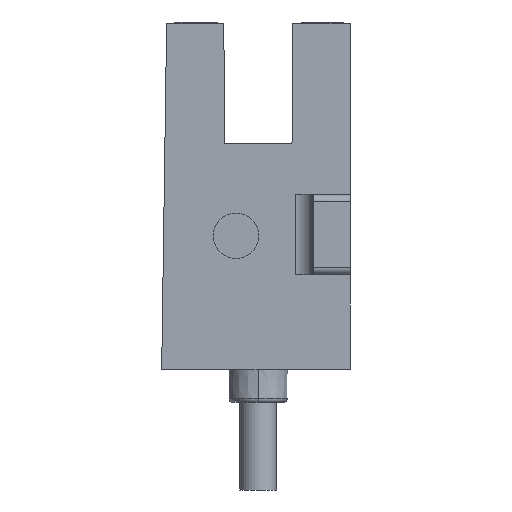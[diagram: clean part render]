
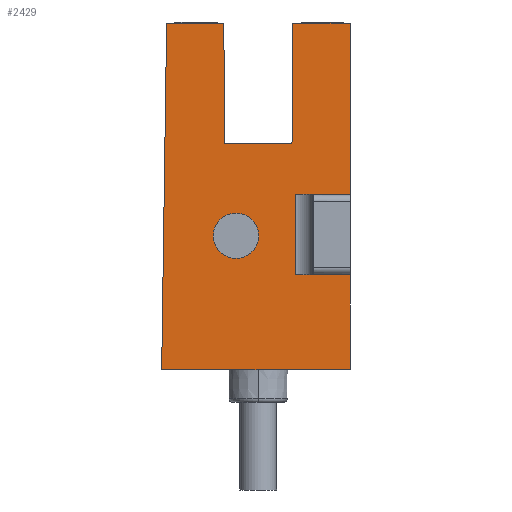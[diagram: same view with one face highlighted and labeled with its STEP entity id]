
A CAD part, left-side view. The second image highlights one B-rep face of the part: STEP entity #2429.
In plain terms, the highlighted planar face has unit normal (-1, 0, 0).
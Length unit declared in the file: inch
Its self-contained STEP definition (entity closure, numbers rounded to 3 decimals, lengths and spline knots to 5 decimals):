
#129=DIRECTION('',(0.,-1.,0.));
#130=VECTOR('',#129,0.0144);
#131=CARTESIAN_POINT('',(-0.00322,-0.01464,0.));
#132=LINE('',#131,#130);
#173=DIRECTION('',(0.,1.,0.));
#174=VECTOR('',#173,0.00437);
#175=CARTESIAN_POINT('',(-0.00322,-0.01939,
0.02643));
#176=LINE('',#175,#174);
#289=DIRECTION('',(0.,0.,1.));
#290=VECTOR('',#289,0.00724);
#291=CARTESIAN_POINT('',(-0.00322,-0.02904,0.));
#292=LINE('',#291,#290);
#315=DIRECTION('',(0.,0.,1.));
#316=VECTOR('',#315,0.01307);
#317=CARTESIAN_POINT('',(-0.00322,-0.02904,
0.01337));
#318=LINE('',#317,#316);
#435=CARTESIAN_POINT('',(-0.00322,-0.02031,
0.01022));
#436=DIRECTION('',(-1.,0.,0.));
#437=DIRECTION('',(0.,0.,-1.));
#438=AXIS2_PLACEMENT_3D('',#435,#436,#437);
#440=CARTESIAN_POINT('',(-0.00322,-0.02031,
0.01022));
#441=DIRECTION('',(-1.,0.,0.));
#442=DIRECTION('',(0.,0.,1.));
#443=AXIS2_PLACEMENT_3D('',#440,#441,#442);
#445=DIRECTION('',(0.,0.,1.));
#446=VECTOR('',#445,0.00613);
#447=CARTESIAN_POINT('',(-0.00322,-0.02482,
0.00724));
#448=LINE('',#447,#446);
#449=DIRECTION('',(0.,-0.014,1.));
#450=VECTOR('',#449,0.02643);
#451=CARTESIAN_POINT('',(-0.00322,-0.01464,0.));
#452=LINE('',#451,#450);
#453=DIRECTION('',(0.,-0.003,-1.));
#454=VECTOR('',#453,0.00921);
#455=CARTESIAN_POINT('',(-0.00322,-0.01939,
0.02643));
#456=LINE('',#455,#454);
#457=DIRECTION('',(0.,-1.,0.));
#458=VECTOR('',#457,0.00517);
#459=CARTESIAN_POINT('',(-0.00322,-0.01942,
0.01723));
#460=LINE('',#459,#458);
#461=DIRECTION('',(0.,-0.003,1.));
#462=VECTOR('',#461,0.00921);
#463=CARTESIAN_POINT('',(-0.00322,-0.02458,
0.01723));
#464=LINE('',#463,#462);
#465=DIRECTION('',(0.,-1.,0.));
#466=VECTOR('',#465,0.00442);
#467=CARTESIAN_POINT('',(-0.00322,-0.02461,
0.02643));
#468=LINE('',#467,#466);
#583=DIRECTION('',(0.,-1.,0.));
#584=VECTOR('',#583,0.00422);
#585=CARTESIAN_POINT('',(-0.00322,-0.02482,
0.01337));
#586=LINE('',#585,#584);
#619=DIRECTION('',(0.,1.,0.));
#620=VECTOR('',#619,0.00422);
#621=CARTESIAN_POINT('',(-0.00322,-0.02904,
0.00724));
#622=LINE('',#621,#620);
#1617=CARTESIAN_POINT('',(-0.00322,-0.01464,0.));
#1619=VERTEX_POINT('',#1617);
#1621=CARTESIAN_POINT('',(-0.00322,-0.02904,0.));
#1622=VERTEX_POINT('',#1621);
#1637=CARTESIAN_POINT('',(-0.00322,-0.01501,
0.02643));
#1639=VERTEX_POINT('',#1637);
#1643=CARTESIAN_POINT('',(-0.00322,-0.01939,
0.02643));
#1644=VERTEX_POINT('',#1643);
#1678=CARTESIAN_POINT('',(-0.00322,-0.02904,
0.00724));
#1679=VERTEX_POINT('',#1678);
#1687=CARTESIAN_POINT('',(-0.00322,-0.02904,
0.01337));
#1688=VERTEX_POINT('',#1687);
#1689=CARTESIAN_POINT('',(-0.00322,-0.02904,
0.02643));
#1690=VERTEX_POINT('',#1689);
#1760=CARTESIAN_POINT('',(-0.00322,-0.01942,
0.01723));
#1761=VERTEX_POINT('',#1760);
#1762=CARTESIAN_POINT('',(-0.00322,-0.02458,
0.01723));
#1763=VERTEX_POINT('',#1762);
#1764=CARTESIAN_POINT('',(-0.00322,-0.02461,
0.02643));
#1765=VERTEX_POINT('',#1764);
#1766=CARTESIAN_POINT('',(-0.00322,-0.02031,
0.00848));
#1767=CARTESIAN_POINT('',(-0.00322,-0.02031,
0.01195));
#1768=VERTEX_POINT('',#1766);
#1769=VERTEX_POINT('',#1767);
#1852=CARTESIAN_POINT('',(-0.00322,-0.02482,
0.00724));
#1853=CARTESIAN_POINT('',(-0.00322,-0.02482,
0.01337));
#1854=VERTEX_POINT('',#1852);
#1855=VERTEX_POINT('',#1853);
#2397=CARTESIAN_POINT('',(-0.00322,-0.02877,0.));
#2398=DIRECTION('',(-1.,0.,0.));
#2399=DIRECTION('',(0.,0.,1.));
#2400=AXIS2_PLACEMENT_3D('',#2397,#2398,#2399);
#2401=PLANE('',#2400);
#2403=ORIENTED_EDGE('',*,*,#2402,.F.);
#2405=ORIENTED_EDGE('',*,*,#2404,.F.);
#2406=ORIENTED_EDGE('',*,*,#2257,.F.);
#2407=ORIENTED_EDGE('',*,*,#2066,.F.);
#2408=ORIENTED_EDGE('',*,*,#2099,.T.);
#2409=ORIENTED_EDGE('',*,*,#2117,.F.);
#2411=ORIENTED_EDGE('',*,*,#2410,.T.);
#2413=ORIENTED_EDGE('',*,*,#2412,.T.);
#2415=ORIENTED_EDGE('',*,*,#2414,.T.);
#2417=ORIENTED_EDGE('',*,*,#2416,.T.);
#2418=ORIENTED_EDGE('',*,*,#2269,.F.);
#2420=ORIENTED_EDGE('',*,*,#2419,.F.);
#2421=EDGE_LOOP('',(#2403,#2405,#2406,#2407,#2408,#2409,#2411,#2413,#2415,#2417,
#2418,#2420));
#2422=FACE_OUTER_BOUND('',#2421,.F.);
#2424=ORIENTED_EDGE('',*,*,#2423,.T.);
#2426=ORIENTED_EDGE('',*,*,#2425,.T.);
#2427=EDGE_LOOP('',(#2424,#2426));
#2428=FACE_BOUND('',#2427,.F.);
#2429=ADVANCED_FACE('',(#2422,#2428),#2401,.T.);
#439=CIRCLE('',#438,0.00173);
#444=CIRCLE('',#443,0.00173);
#2066=EDGE_CURVE('',#1619,#1622,#132,.T.);
#2099=EDGE_CURVE('',#1619,#1639,#452,.T.);
#2117=EDGE_CURVE('',#1644,#1639,#176,.T.);
#2257=EDGE_CURVE('',#1622,#1679,#292,.T.);
#2269=EDGE_CURVE('',#1688,#1690,#318,.T.);
#2402=EDGE_CURVE('',#1854,#1855,#448,.T.);
#2404=EDGE_CURVE('',#1679,#1854,#622,.T.);
#2410=EDGE_CURVE('',#1644,#1761,#456,.T.);
#2412=EDGE_CURVE('',#1761,#1763,#460,.T.);
#2414=EDGE_CURVE('',#1763,#1765,#464,.T.);
#2416=EDGE_CURVE('',#1765,#1690,#468,.T.);
#2419=EDGE_CURVE('',#1855,#1688,#586,.T.);
#2423=EDGE_CURVE('',#1768,#1769,#439,.T.);
#2425=EDGE_CURVE('',#1769,#1768,#444,.T.);
